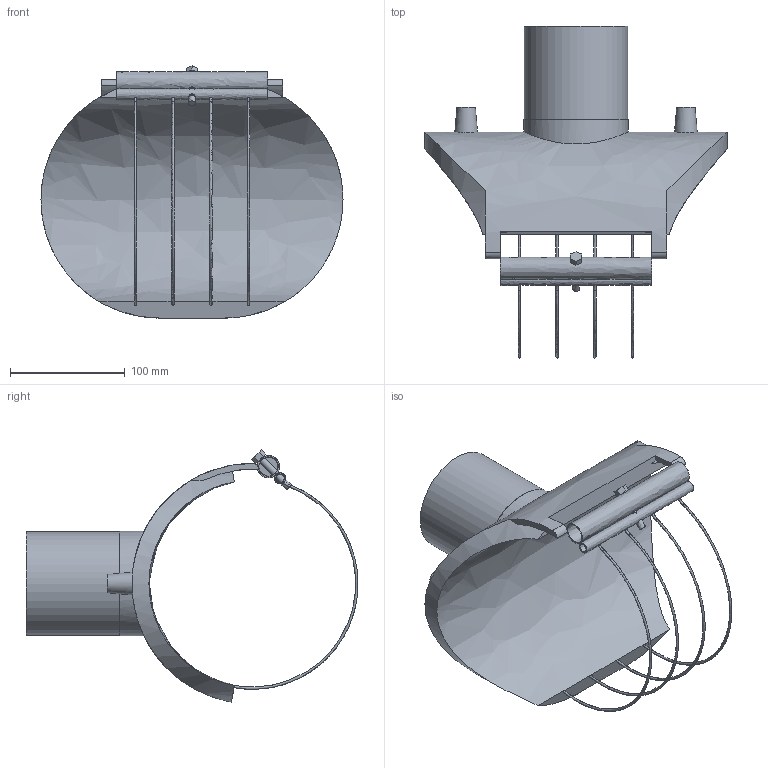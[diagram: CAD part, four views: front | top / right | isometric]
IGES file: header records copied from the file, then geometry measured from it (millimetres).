
Global section: file name: 4958X4180090T; native system: Autodesk Inventor 2021; preprocessor: unknown; author: KIM; date: 20250507.121517; units: millimetre
Bounding box: 263 x 289 x 219.5 mm (x, y, z)
Volume: 1102215.6 mm3; surface area: 219885.1 mm2
Topology: 1 solids, 1 shells, 62 faces, 187 edges, 126 vertices
Faces by surface type: bspline 62
